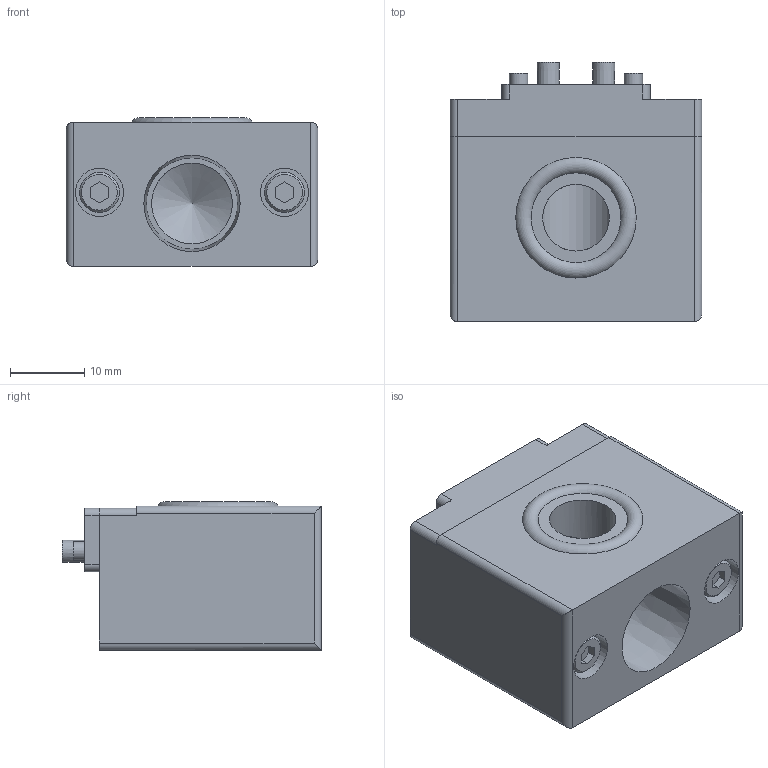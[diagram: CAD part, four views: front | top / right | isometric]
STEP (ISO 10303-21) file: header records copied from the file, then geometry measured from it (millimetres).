
FILE_DESCRIPTION(('STEP AP214'),'1');
FILE_NAME('KHB-1HS-EP81_ver1.stp','2026-04-24T00:12:53',(' '),(' '),'Spatial InterOp 3D',' ',' ');
FILE_SCHEMA(('AUTOMOTIVE_DESIGN { 1 0 10303 214 1 1 1 1 }'));
Length unit declared in the file: millimetre
Products named in the file (1): KHB-1HS-EP81_ver1
Bounding box: 34 x 35 x 20.1 mm (x, y, z)
Volume: 17296.7 mm3; surface area: 7164.7 mm2
Topology: 1 solids, 9 shells, 167 faces, 379 edges, 247 vertices
Faces by surface type: plane 114, cylinder 40, cone 12, torus 1
Full cylindrical faces by diameter (mm): 2.5 x8, 3 x2, 3.5 x4, 5.41 x2, 6.5 x2, 9 x1, 10.9 x1
Entity records: 5796 total; most frequent: CARTESIAN_POINT 818, DIRECTION 760, ORIENTED_EDGE 664, EDGE_CURVE 332, AXIS2_PLACEMENT_3D 261, LINE 238, VECTOR 238, VERTEX_POINT 235
